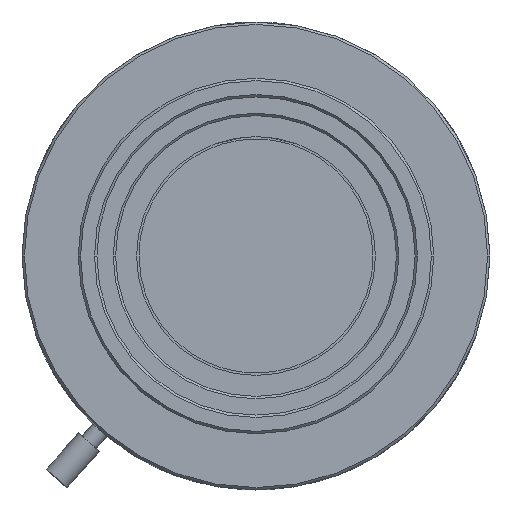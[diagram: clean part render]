
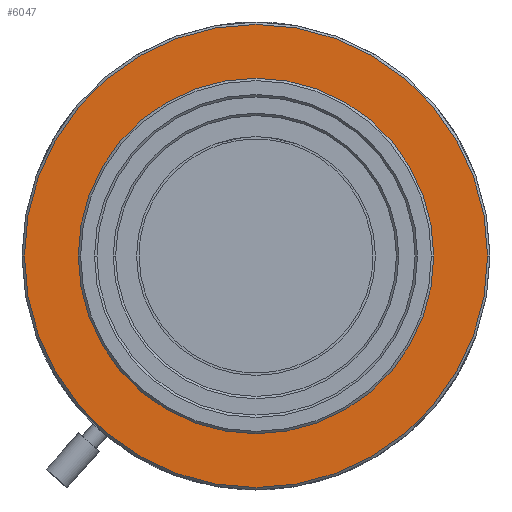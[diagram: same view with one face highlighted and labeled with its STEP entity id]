
A CAD part, left-side view. The second image highlights one B-rep face of the part: STEP entity #6047.
In plain terms, the highlighted planar face has unit normal (-1, 0, 0).
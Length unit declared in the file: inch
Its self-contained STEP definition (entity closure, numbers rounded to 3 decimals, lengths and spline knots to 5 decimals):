
#73 = CARTESIAN_POINT ( 'NONE',  ( -2.52428, 0., 0. ) ) ;
#308 = AXIS2_PLACEMENT_3D ( 'NONE', #6681, #380, #3170 ) ;
#380 = DIRECTION ( 'NONE',  ( -1., 0., 0. ) ) ;
#662 = VERTEX_POINT ( 'NONE', #986 ) ;
#986 = CARTESIAN_POINT ( 'NONE',  ( -2.52428, 0.97425, 0. ) ) ;
#1653 = DIRECTION ( 'NONE',  ( 1., 0., 0. ) ) ;
#1691 = FACE_OUTER_BOUND ( 'NONE', #4898, .T. ) ;
#1909 = ORIENTED_EDGE ( 'NONE', *, *, #6239, .F. ) ;
#1917 = ORIENTED_EDGE ( 'NONE', *, *, #7174, .T. ) ;
#2311 = CARTESIAN_POINT ( 'NONE',  ( -2.52428, -0.97425, 0. ) ) ;
#2343 = AXIS2_PLACEMENT_3D ( 'NONE', #8763, #1653, #7320 ) ;
#3078 = PLANE ( 'NONE',  #2343 ) ;
#3170 = DIRECTION ( 'NONE',  ( 0., -1., 0. ) ) ;
#3291 = CARTESIAN_POINT ( 'NONE',  ( -2.52428, 0., 0. ) ) ;
#3564 = VERTEX_POINT ( 'NONE', #2311 ) ;
#3859 = CARTESIAN_POINT ( 'NONE',  ( -2.52428, 0., 0. ) ) ;
#3971 = AXIS2_PLACEMENT_3D ( 'NONE', #3859, #8162, #4596 ) ;
#4427 = EDGE_CURVE ( 'NONE', #3564, #662, #6773, .T. ) ;
#4584 = EDGE_CURVE ( 'NONE', #4781, #8707, #5868, .T. ) ;
#4596 = DIRECTION ( 'NONE',  ( 0., 1., 0. ) ) ;
#4781 = VERTEX_POINT ( 'NONE', #8454 ) ;
#4898 = EDGE_LOOP ( 'NONE', ( #5726, #1917 ) ) ;
#5020 = DIRECTION ( 'NONE',  ( 0., -1., 0. ) ) ;
#5304 = DIRECTION ( 'NONE',  ( -1., 0., 0. ) ) ;
#5315 = CIRCLE ( 'NONE', #7985, 0.97425 ) ;
#5577 = AXIS2_PLACEMENT_3D ( 'NONE', #3291, #5304, #6796 ) ;
#5651 = DIRECTION ( 'NONE',  ( -1., 0., 0. ) ) ;
#5726 = ORIENTED_EDGE ( 'NONE', *, *, #4427, .T. ) ;
#5868 = CIRCLE ( 'NONE', #5577, 0.70865 ) ;
#6038 = CIRCLE ( 'NONE', #3971, 0.70865 ) ;
#6047 = ADVANCED_FACE ( 'NONE', ( #7980, #1691 ), #3078, .F. ) ;
#6239 = EDGE_CURVE ( 'NONE', #8707, #4781, #6038, .T. ) ;
#6681 = CARTESIAN_POINT ( 'NONE',  ( -2.52428, 0., 0. ) ) ;
#6773 = CIRCLE ( 'NONE', #308, 0.97425 ) ;
#6796 = DIRECTION ( 'NONE',  ( 0., 1., 0. ) ) ;
#7174 = EDGE_CURVE ( 'NONE', #662, #3564, #5315, .T. ) ;
#7282 = CARTESIAN_POINT ( 'NONE',  ( -2.52428, 0.70865, 0. ) ) ;
#7319 = ORIENTED_EDGE ( 'NONE', *, *, #4584, .F. ) ;
#7320 = DIRECTION ( 'NONE',  ( 0., -1., 0. ) ) ;
#7924 = EDGE_LOOP ( 'NONE', ( #1909, #7319 ) ) ;
#7980 = FACE_BOUND ( 'NONE', #7924, .T. ) ;
#7985 = AXIS2_PLACEMENT_3D ( 'NONE', #73, #5651, #5020 ) ;
#8162 = DIRECTION ( 'NONE',  ( -1., 0., 0. ) ) ;
#8454 = CARTESIAN_POINT ( 'NONE',  ( -2.52428, -0.70865, 0. ) ) ;
#8707 = VERTEX_POINT ( 'NONE', #7282 ) ;
#8763 = CARTESIAN_POINT ( 'NONE',  ( -2.52428, 0., 0. ) ) ;
